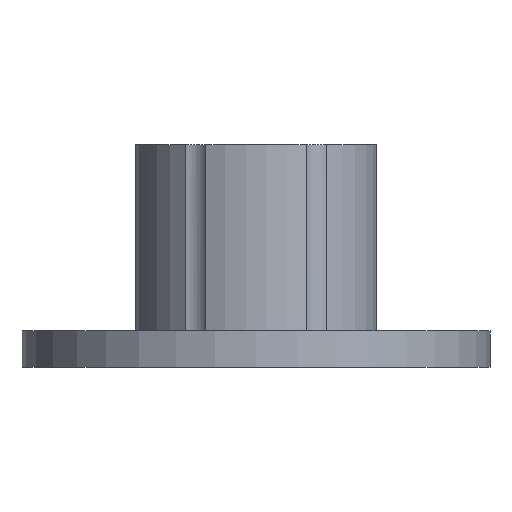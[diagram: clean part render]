
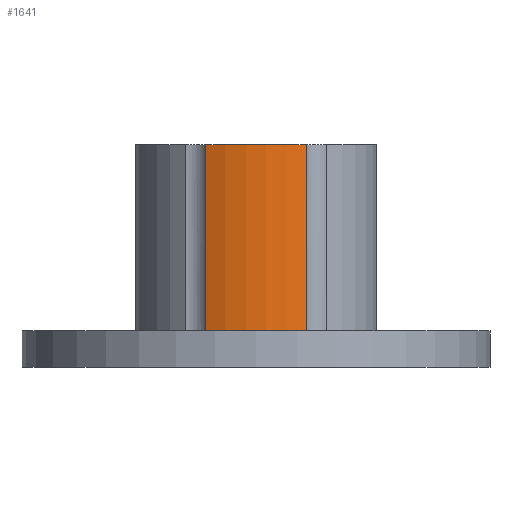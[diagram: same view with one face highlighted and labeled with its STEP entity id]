
A CAD part, front view. The second image highlights one B-rep face of the part: STEP entity #1641.
In plain terms, the highlighted cylindrical face has radius 11.295 mm (diameter 22.59 mm), a partial arc.
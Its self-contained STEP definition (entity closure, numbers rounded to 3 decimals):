
#78 = CYLINDRICAL_SURFACE('',#79,2.15);
#79 = AXIS2_PLACEMENT_3D('',#80,#81,#82);
#80 = CARTESIAN_POINT('',(6.55,-11.345,20.8));
#81 = DIRECTION('',(0.,0.,-1.));
#82 = DIRECTION('',(-0.5,0.866,0.));
#148 = CYLINDRICAL_SURFACE('',#149,2.15);
#149 = AXIS2_PLACEMENT_3D('',#150,#151,#152);
#150 = CARTESIAN_POINT('',(-6.55,-11.345,20.8));
#151 = DIRECTION('',(0.,-0.,-1.));
#152 = DIRECTION('',(0.5,0.866,0.));
#338 = PLANE('',#339);
#339 = AXIS2_PLACEMENT_3D('',#340,#341,#342);
#340 = CARTESIAN_POINT('',(0.,0.,3.4));
#341 = DIRECTION('',(0.,0.,1.));
#342 = DIRECTION('',(1.,0.,-0.));
#395 = PLANE('',#396);
#396 = AXIS2_PLACEMENT_3D('',#397,#398,#399);
#397 = CARTESIAN_POINT('',(0.,0.,20.8));
#398 = DIRECTION('',(0.,0.,1.));
#399 = DIRECTION('',(1.,0.,-0.));
#438 = VERTEX_POINT('',#439);
#439 = CARTESIAN_POINT('',(4.683,-10.278,3.4));
#465 = EDGE_CURVE('',#438,#466,#468,.T.);
#466 = VERTEX_POINT('',#467);
#467 = CARTESIAN_POINT('',(4.683,-10.278,20.8));
#468 = SURFACE_CURVE('',#469,(#473,#479),.PCURVE_S1.);
#469 = LINE('',#470,#471);
#470 = CARTESIAN_POINT('',(4.683,-10.278,3.4));
#471 = VECTOR('',#472,1.);
#472 = DIRECTION('',(0.,0.,1.));
#473 = PCURVE('',#78,#474);
#474 = DEFINITIONAL_REPRESENTATION('',(#475),#478);
#475 = B_SPLINE_CURVE_WITH_KNOTS('',1,(#476,#477),.UNSPECIFIED.,.F.,.F.,
  (2,2),(0.,17.4),.PIECEWISE_BEZIER_KNOTS.);
#476 = CARTESIAN_POINT('',(5.755,17.4));
#477 = CARTESIAN_POINT('',(5.755,0.));
#478 = ( GEOMETRIC_REPRESENTATION_CONTEXT(2) 
PARAMETRIC_REPRESENTATION_CONTEXT() REPRESENTATION_CONTEXT('2D SPACE',''
  ) );
#479 = PCURVE('',#480,#485);
#480 = CYLINDRICAL_SURFACE('',#481,11.295);
#481 = AXIS2_PLACEMENT_3D('',#482,#483,#484);
#482 = CARTESIAN_POINT('',(0.,0.,3.4));
#483 = DIRECTION('',(0.,0.,1.));
#484 = DIRECTION('',(1.,0.,-0.));
#485 = DEFINITIONAL_REPRESENTATION('',(#486),#489);
#486 = B_SPLINE_CURVE_WITH_KNOTS('',1,(#487,#488),.UNSPECIFIED.,.F.,.F.,
  (2,2),(0.,17.4),.PIECEWISE_BEZIER_KNOTS.);
#487 = CARTESIAN_POINT('',(5.14,0.));
#488 = CARTESIAN_POINT('',(5.14,17.4));
#489 = ( GEOMETRIC_REPRESENTATION_CONTEXT(2) 
PARAMETRIC_REPRESENTATION_CONTEXT() REPRESENTATION_CONTEXT('2D SPACE',''
  ) );
#703 = VERTEX_POINT('',#704);
#704 = CARTESIAN_POINT('',(-4.683,-10.278,20.8));
#730 = EDGE_CURVE('',#731,#703,#733,.T.);
#731 = VERTEX_POINT('',#732);
#732 = CARTESIAN_POINT('',(-4.683,-10.278,3.4));
#733 = SURFACE_CURVE('',#734,(#738,#744),.PCURVE_S1.);
#734 = LINE('',#735,#736);
#735 = CARTESIAN_POINT('',(-4.683,-10.278,3.4));
#736 = VECTOR('',#737,1.);
#737 = DIRECTION('',(0.,0.,1.));
#738 = PCURVE('',#148,#739);
#739 = DEFINITIONAL_REPRESENTATION('',(#740),#743);
#740 = B_SPLINE_CURVE_WITH_KNOTS('',1,(#741,#742),.UNSPECIFIED.,.F.,.F.,
  (2,2),(0.,17.4),.PIECEWISE_BEZIER_KNOTS.);
#741 = CARTESIAN_POINT('',(0.528,17.4));
#742 = CARTESIAN_POINT('',(0.528,0.));
#743 = ( GEOMETRIC_REPRESENTATION_CONTEXT(2) 
PARAMETRIC_REPRESENTATION_CONTEXT() REPRESENTATION_CONTEXT('2D SPACE',''
  ) );
#744 = PCURVE('',#480,#745);
#745 = DEFINITIONAL_REPRESENTATION('',(#746),#749);
#746 = B_SPLINE_CURVE_WITH_KNOTS('',1,(#747,#748),.UNSPECIFIED.,.F.,.F.,
  (2,2),(0.,17.4),.PIECEWISE_BEZIER_KNOTS.);
#747 = CARTESIAN_POINT('',(4.285,0.));
#748 = CARTESIAN_POINT('',(4.285,17.4));
#749 = ( GEOMETRIC_REPRESENTATION_CONTEXT(2) 
PARAMETRIC_REPRESENTATION_CONTEXT() REPRESENTATION_CONTEXT('2D SPACE',''
  ) );
#1400 = EDGE_CURVE('',#731,#438,#1401,.T.);
#1401 = SURFACE_CURVE('',#1402,(#1407,#1414),.PCURVE_S1.);
#1402 = CIRCLE('',#1403,11.295);
#1403 = AXIS2_PLACEMENT_3D('',#1404,#1405,#1406);
#1404 = CARTESIAN_POINT('',(0.,0.,3.4));
#1405 = DIRECTION('',(0.,0.,1.));
#1406 = DIRECTION('',(1.,0.,-0.));
#1407 = PCURVE('',#338,#1408);
#1408 = DEFINITIONAL_REPRESENTATION('',(#1409),#1413);
#1409 = CIRCLE('',#1410,11.295);
#1410 = AXIS2_PLACEMENT_2D('',#1411,#1412);
#1411 = CARTESIAN_POINT('',(0.,0.));
#1412 = DIRECTION('',(1.,0.));
#1413 = ( GEOMETRIC_REPRESENTATION_CONTEXT(2) 
PARAMETRIC_REPRESENTATION_CONTEXT() REPRESENTATION_CONTEXT('2D SPACE',''
  ) );
#1414 = PCURVE('',#480,#1415);
#1415 = DEFINITIONAL_REPRESENTATION('',(#1416),#1420);
#1416 = LINE('',#1417,#1418);
#1417 = CARTESIAN_POINT('',(0.,0.));
#1418 = VECTOR('',#1419,1.);
#1419 = DIRECTION('',(1.,0.));
#1420 = ( GEOMETRIC_REPRESENTATION_CONTEXT(2) 
PARAMETRIC_REPRESENTATION_CONTEXT() REPRESENTATION_CONTEXT('2D SPACE',''
  ) );
#1592 = EDGE_CURVE('',#703,#466,#1593,.T.);
#1593 = SURFACE_CURVE('',#1594,(#1599,#1606),.PCURVE_S1.);
#1594 = CIRCLE('',#1595,11.295);
#1595 = AXIS2_PLACEMENT_3D('',#1596,#1597,#1598);
#1596 = CARTESIAN_POINT('',(0.,0.,20.8));
#1597 = DIRECTION('',(0.,0.,1.));
#1598 = DIRECTION('',(1.,0.,-0.));
#1599 = PCURVE('',#395,#1600);
#1600 = DEFINITIONAL_REPRESENTATION('',(#1601),#1605);
#1601 = CIRCLE('',#1602,11.295);
#1602 = AXIS2_PLACEMENT_2D('',#1603,#1604);
#1603 = CARTESIAN_POINT('',(0.,0.));
#1604 = DIRECTION('',(1.,0.));
#1605 = ( GEOMETRIC_REPRESENTATION_CONTEXT(2) 
PARAMETRIC_REPRESENTATION_CONTEXT() REPRESENTATION_CONTEXT('2D SPACE',''
  ) );
#1606 = PCURVE('',#480,#1607);
#1607 = DEFINITIONAL_REPRESENTATION('',(#1608),#1612);
#1608 = LINE('',#1609,#1610);
#1609 = CARTESIAN_POINT('',(0.,17.4));
#1610 = VECTOR('',#1611,1.);
#1611 = DIRECTION('',(1.,0.));
#1612 = ( GEOMETRIC_REPRESENTATION_CONTEXT(2) 
PARAMETRIC_REPRESENTATION_CONTEXT() REPRESENTATION_CONTEXT('2D SPACE',''
  ) );
#1641 = ADVANCED_FACE('',(#1642),#480,.T.);
#1642 = FACE_BOUND('',#1643,.T.);
#1643 = EDGE_LOOP('',(#1644,#1645,#1646,#1647));
#1644 = ORIENTED_EDGE('',*,*,#1400,.T.);
#1645 = ORIENTED_EDGE('',*,*,#465,.T.);
#1646 = ORIENTED_EDGE('',*,*,#1592,.F.);
#1647 = ORIENTED_EDGE('',*,*,#730,.F.);
